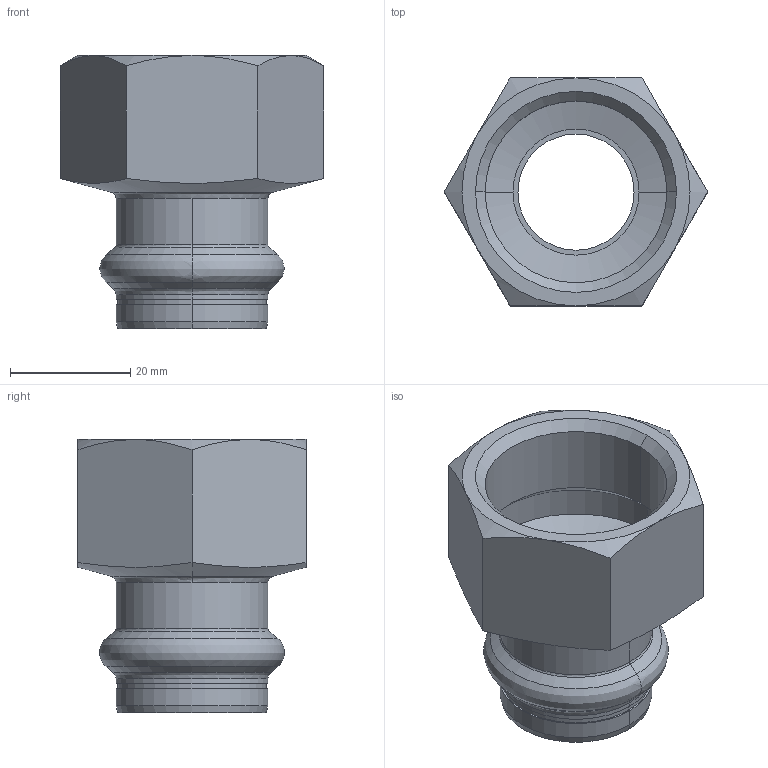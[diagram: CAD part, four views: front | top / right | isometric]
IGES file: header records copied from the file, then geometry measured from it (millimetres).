
Start section: Elysium IGES Interface
Global section: file name: F:\3d modellen sudo\S-Pr VP\SP6270GV\6270GVW221.igs; native system: CoCreate Modeling 17.00A  17-Jun-2010; preprocessor: CoCreate IGES_3D V2.2; author: Unknown; organization: Unknown; date: 20130128.114756; units: millimetre
Bounding box: 43.88 x 38 x 45.5 mm (x, y, z)
Volume: 14885.9 mm3; surface area: 10528.6 mm2
Topology: 1 solids, 1 shells, 64 faces, 144 edges, 82 vertices
Faces by surface type: bspline 64
